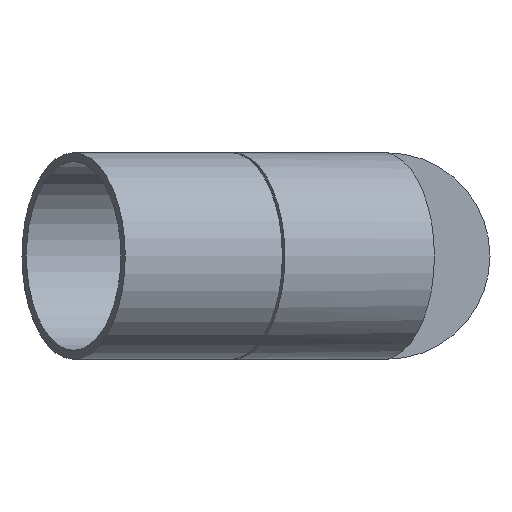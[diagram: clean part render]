
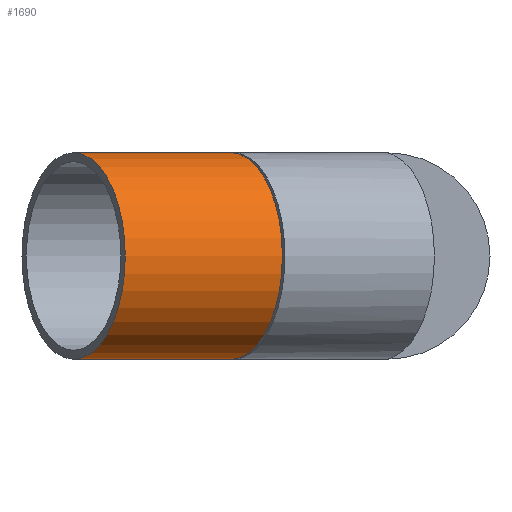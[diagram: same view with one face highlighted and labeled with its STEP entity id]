
A CAD part, left-side view. The second image highlights one B-rep face of the part: STEP entity #1690.
In plain terms, the highlighted cylindrical face has radius 35 mm (diameter 70 mm), a full revolution.
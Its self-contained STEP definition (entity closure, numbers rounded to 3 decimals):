
#187=FACE_OUTER_BOUND('',#310,.T.);
#310=EDGE_LOOP('',(#1305,#1306,#1307,#1308));
#423=LINE('',#2922,#538);
#538=VECTOR('',#2210,35.);
#662=CIRCLE('',#1862,35.);
#663=CIRCLE('',#1863,35.);
#788=VERTEX_POINT('',#2919);
#789=VERTEX_POINT('',#2921);
#974=EDGE_CURVE('',#788,#788,#662,.T.);
#975=EDGE_CURVE('',#788,#789,#423,.T.);
#976=EDGE_CURVE('',#789,#789,#663,.T.);
#1305=ORIENTED_EDGE('',*,*,#974,.F.);
#1306=ORIENTED_EDGE('',*,*,#975,.T.);
#1307=ORIENTED_EDGE('',*,*,#976,.T.);
#1308=ORIENTED_EDGE('',*,*,#975,.F.);
#1623=CYLINDRICAL_SURFACE('',#1861,35.);
#1690=ADVANCED_FACE('',(#187),#1623,.T.);
#1861=AXIS2_PLACEMENT_3D('',#2918,#2206,#2207);
#1862=AXIS2_PLACEMENT_3D('',#2920,#2208,#2209);
#1863=AXIS2_PLACEMENT_3D('',#2923,#2211,#2212);
#2206=DIRECTION('center_axis',(0.5,-0.866,0.));
#2207=DIRECTION('ref_axis',(0.866,0.5,0.));
#2208=DIRECTION('center_axis',(0.5,-0.866,0.));
#2209=DIRECTION('ref_axis',(0.866,0.5,0.));
#2210=DIRECTION('',(-0.5,0.866,0.));
#2211=DIRECTION('center_axis',(0.5,-0.866,0.));
#2212=DIRECTION('ref_axis',(0.866,0.5,0.));
#2918=CARTESIAN_POINT('Origin',(-35.441,66.016,-600.));
#2919=CARTESIAN_POINT('',(-50.377,21.886,-600.));
#2920=CARTESIAN_POINT('Origin',(-20.066,39.386,-600.));
#2921=CARTESIAN_POINT('',(-81.127,75.147,-600.));
#2922=CARTESIAN_POINT('',(-65.752,48.516,-600.));
#2923=CARTESIAN_POINT('Origin',(-50.816,92.647,-600.));
